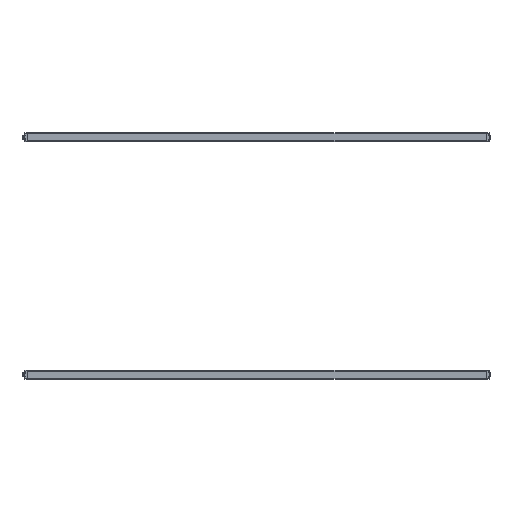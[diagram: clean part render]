
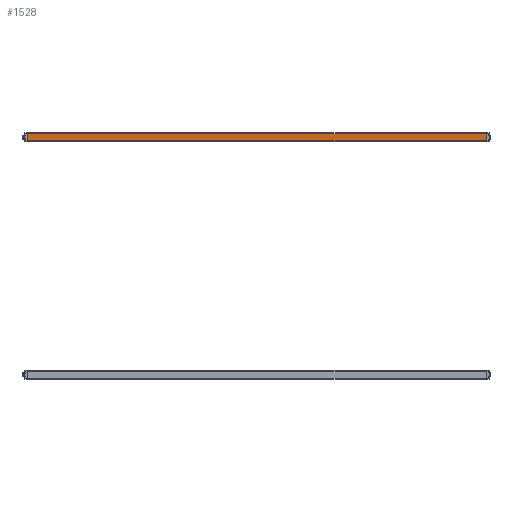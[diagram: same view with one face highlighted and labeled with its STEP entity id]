
A CAD part, front view. The second image highlights one B-rep face of the part: STEP entity #1528.
In plain terms, the highlighted planar face has unit normal (0, -1, 0).
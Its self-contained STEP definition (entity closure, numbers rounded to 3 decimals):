
#1528=ADVANCED_FACE('',(#2380),#16832,.T.);
#2380=FACE_OUTER_BOUND('',#3206,.T.);
#3206=EDGE_LOOP('',(#8398,#8399,#8400,#8401));
#4098=LINE('',#23346,#6067);
#4200=LINE('',#23578,#6169);
#4288=LINE('',#23757,#6257);
#4289=LINE('',#23758,#6258);
#6067=VECTOR('',#18779,1.);
#6169=VECTOR('',#18925,1.);
#6257=VECTOR('',#19115,1.);
#6258=VECTOR('',#19116,1.);
#8398=ORIENTED_EDGE('',*,*,#14172,.T.);
#8399=ORIENTED_EDGE('',*,*,#14381,.T.);
#8400=ORIENTED_EDGE('',*,*,#14289,.F.);
#8401=ORIENTED_EDGE('',*,*,#14382,.F.);
#12679=VERTEX_POINT('',#23345);
#12680=VERTEX_POINT('',#23347);
#12787=VERTEX_POINT('',#23577);
#12788=VERTEX_POINT('',#23579);
#14172=EDGE_CURVE('',#12680,#12679,#4098,.T.);
#14289=EDGE_CURVE('',#12787,#12788,#4200,.T.);
#14381=EDGE_CURVE('',#12679,#12788,#4288,.T.);
#14382=EDGE_CURVE('',#12680,#12787,#4289,.T.);
#16832=PLANE('',#17596);
#17596=AXIS2_PLACEMENT_3D('',#23759,#19117,#19118);
#18779=DIRECTION('',(0.,0.,-1.));
#18925=DIRECTION('',(0.,0.,-1.));
#19115=DIRECTION('',(1.,0.,0.));
#19116=DIRECTION('',(1.,0.,0.));
#19117=DIRECTION('',(0.,-1.,0.));
#19118=DIRECTION('',(0.,0.,-1.));
#23345=CARTESIAN_POINT('',(-240.,-15.15,-12.));
#23346=CARTESIAN_POINT('',(-240.,-15.15,12.));
#23347=CARTESIAN_POINT('',(-240.,-15.15,12.));
#23577=CARTESIAN_POINT('',(1360.,-15.15,12.));
#23578=CARTESIAN_POINT('',(1360.,-15.15,12.));
#23579=CARTESIAN_POINT('',(1360.,-15.15,-12.));
#23757=CARTESIAN_POINT('',(0.,-15.15,-12.));
#23758=CARTESIAN_POINT('',(0.,-15.15,12.));
#23759=CARTESIAN_POINT('',(0.,-15.15,15.65));
